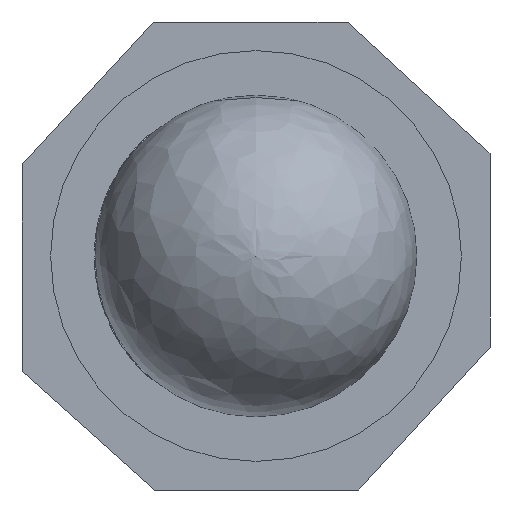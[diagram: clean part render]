
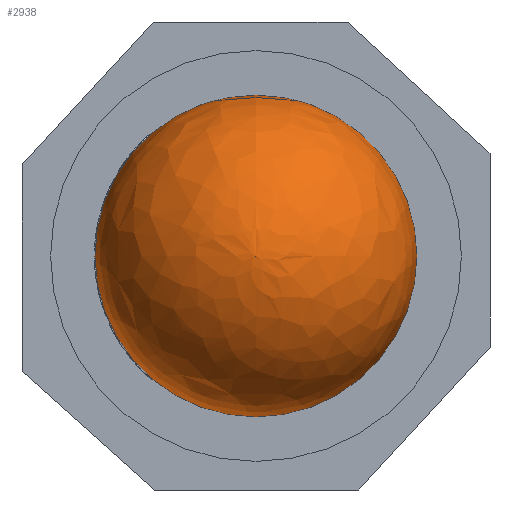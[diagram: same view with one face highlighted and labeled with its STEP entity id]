
A CAD part, left-side view. The second image highlights one B-rep face of the part: STEP entity #2938.
In plain terms, the highlighted free-form (B-spline) face has degree [2, 2] with [3, 9] control points.
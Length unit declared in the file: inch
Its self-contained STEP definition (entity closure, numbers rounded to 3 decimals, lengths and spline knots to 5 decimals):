
#15=(
BOUNDED_SURFACE()
B_SPLINE_SURFACE(2,2,((#6827,#6828,#6829,#6830,#6831,#6832,#6833,#6834,
#6835),(#6836,#6837,#6838,#6839,#6840,#6841,#6842,#6843,#6844),(#6845,#6846,
#6847,#6848,#6849,#6850,#6851,#6852,#6853)),.UNSPECIFIED.,.F.,.T.,.F.)
B_SPLINE_SURFACE_WITH_KNOTS((3,3),(3,2,2,2,3),(-1.49214,0.),
(-3.14159,-1.5708,0.,1.5708,3.14159),
 .UNSPECIFIED.)
GEOMETRIC_REPRESENTATION_ITEM()
RATIONAL_B_SPLINE_SURFACE(((1.,0.707,1.,0.707,1.,
0.707,1.,0.707,1.),(0.734,0.519,
0.734,0.519,0.734,0.519,0.734,
0.519,0.734),(1.,0.707,1.,0.707,
1.,0.707,1.,0.707,1.)))
REPRESENTATION_ITEM('')
SURFACE()
);
#427=FACE_OUTER_BOUND('',#609,.T.);
#609=EDGE_LOOP('',(#2696,#2697,#2698,#2699));
#1101=CIRCLE('',#3081,0.21654);
#1102=CIRCLE('',#3082,0.21654);
#1124=CIRCLE('',#3129,0.235);
#1375=VERTEX_POINT('',#6663);
#1376=VERTEX_POINT('',#6665);
#1414=VERTEX_POINT('',#6854);
#1790=EDGE_CURVE('',#1375,#1376,#1101,.T.);
#1791=EDGE_CURVE('',#1376,#1375,#1102,.T.);
#1844=EDGE_CURVE('',#1375,#1414,#1124,.T.);
#2696=ORIENTED_EDGE('',*,*,#1791,.F.);
#2697=ORIENTED_EDGE('',*,*,#1790,.F.);
#2698=ORIENTED_EDGE('',*,*,#1844,.T.);
#2699=ORIENTED_EDGE('',*,*,#1844,.F.);
#2938=ADVANCED_FACE('',(#427),#15,.F.);
#3081=AXIS2_PLACEMENT_3D('',#6666,#3562,#3563);
#3082=AXIS2_PLACEMENT_3D('',#6667,#3564,#3565);
#3129=AXIS2_PLACEMENT_3D('',#6855,#3689,#3690);
#3562=DIRECTION('center_axis',(1.,0.,0.));
#3563=DIRECTION('ref_axis',(0.,0.,-1.));
#3564=DIRECTION('center_axis',(1.,0.,0.));
#3565=DIRECTION('ref_axis',(0.,0.,-1.));
#3689=DIRECTION('center_axis',(0.,-1.,0.));
#3690=DIRECTION('ref_axis',(0.,0.,1.));
#6663=CARTESIAN_POINT('',(-0.23573,0.,0.21654));
#6665=CARTESIAN_POINT('',(-0.23573,0.,-0.21654));
#6666=CARTESIAN_POINT('Origin',(-0.23573,0.,0.));
#6667=CARTESIAN_POINT('Origin',(-0.23573,0.,0.));
#6827=CARTESIAN_POINT('Ctrl Pts',(-0.47,0.,0.));
#6828=CARTESIAN_POINT('Ctrl Pts',(-0.47,0.,0.));
#6829=CARTESIAN_POINT('Ctrl Pts',(-0.47,0.,0.));
#6830=CARTESIAN_POINT('Ctrl Pts',(-0.47,0.,0.));
#6831=CARTESIAN_POINT('Ctrl Pts',(-0.47,0.,0.));
#6832=CARTESIAN_POINT('Ctrl Pts',(-0.47,0.,0.));
#6833=CARTESIAN_POINT('Ctrl Pts',(-0.47,0.,0.));
#6834=CARTESIAN_POINT('Ctrl Pts',(-0.47,0.,0.));
#6835=CARTESIAN_POINT('Ctrl Pts',(-0.47,0.,0.));
#6836=CARTESIAN_POINT('Ctrl Pts',(-0.45293,0.,0.21654));
#6837=CARTESIAN_POINT('Ctrl Pts',(-0.45293,-0.21654,
0.21654));
#6838=CARTESIAN_POINT('Ctrl Pts',(-0.45293,-0.21654,
0.));
#6839=CARTESIAN_POINT('Ctrl Pts',(-0.45293,-0.21654,
-0.21654));
#6840=CARTESIAN_POINT('Ctrl Pts',(-0.45293,0.,-0.21654));
#6841=CARTESIAN_POINT('Ctrl Pts',(-0.45293,0.21654,
-0.21654));
#6842=CARTESIAN_POINT('Ctrl Pts',(-0.45293,0.21654,
0.));
#6843=CARTESIAN_POINT('Ctrl Pts',(-0.45293,0.21654,
0.21654));
#6844=CARTESIAN_POINT('Ctrl Pts',(-0.45293,0.,0.21654));
#6845=CARTESIAN_POINT('Ctrl Pts',(-0.23573,0.,0.21654));
#6846=CARTESIAN_POINT('Ctrl Pts',(-0.23573,-0.21654,
0.21654));
#6847=CARTESIAN_POINT('Ctrl Pts',(-0.23573,-0.21654,
0.));
#6848=CARTESIAN_POINT('Ctrl Pts',(-0.23573,-0.21654,
-0.21654));
#6849=CARTESIAN_POINT('Ctrl Pts',(-0.23573,0.,-0.21654));
#6850=CARTESIAN_POINT('Ctrl Pts',(-0.23573,0.21654,
-0.21654));
#6851=CARTESIAN_POINT('Ctrl Pts',(-0.23573,0.21654,
0.));
#6852=CARTESIAN_POINT('Ctrl Pts',(-0.23573,0.21654,
0.21654));
#6853=CARTESIAN_POINT('Ctrl Pts',(-0.23573,0.,0.21654));
#6854=CARTESIAN_POINT('',(-0.47,0.,0.));
#6855=CARTESIAN_POINT('Origin',(-0.23573,0.,
-0.01846));
